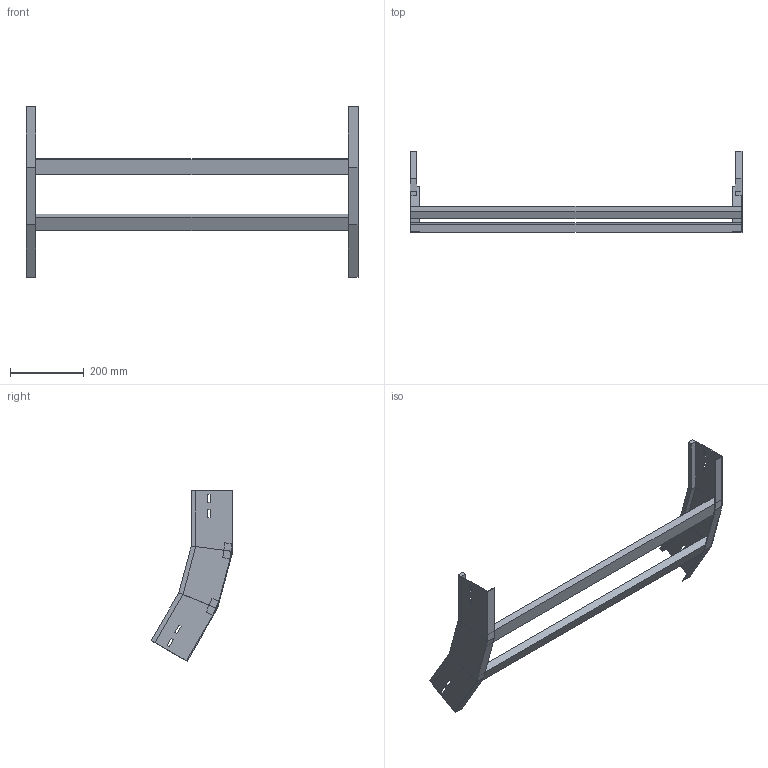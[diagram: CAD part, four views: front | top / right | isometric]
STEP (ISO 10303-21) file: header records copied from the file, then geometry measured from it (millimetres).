
FILE_DESCRIPTION (( 'STEP AP214' ), '1' );
FILE_NAME ('B2X32B5J900XX.step', '2025-03-20T10:01:16', ( '' ), ( '' ), 'SwSTEP 2.0', 'SolidWorks 2023', '' );
FILE_SCHEMA (( 'AUTOMOTIVE_DESIGN' ));
Length unit declared in the file: millimetre
Products named in the file (3): TRAVERSINO_900; LONGH.SALITA_30°_H112.5_R500; B2X32B5J900XX
Assembly tree (4 placements, depth 2):
  B2X32B5J900XX
    LONGH.SALITA_30°_H112.5_R500  x2
    TRAVERSINO_900  x2
Bounding box: 900 x 221.37 x 462.57 mm (x, y, z)
Volume: 1871890.7 mm3; surface area: 508037.4 mm2
Topology: 4 solids, 4 shells, 96 faces, 232 edges, 144 vertices
Faces by surface type: plane 96
Entity records: 1472 total; most frequent: CARTESIAN_POINT 243, ORIENTED_EDGE 232, DIRECTION 226, EDGE_CURVE 116, LINE 116, VECTOR 116, VERTEX_POINT 72, EDGE_LOOP 56
